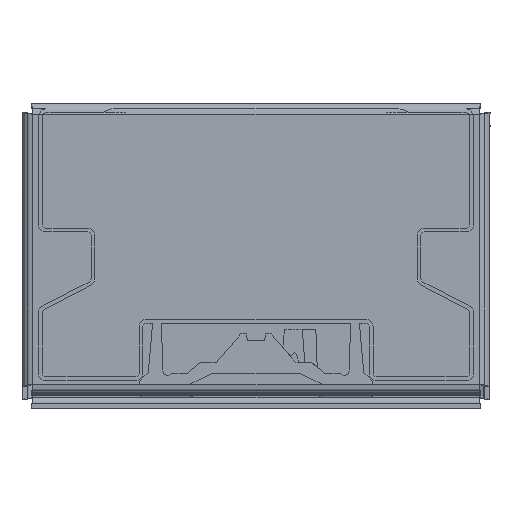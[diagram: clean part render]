
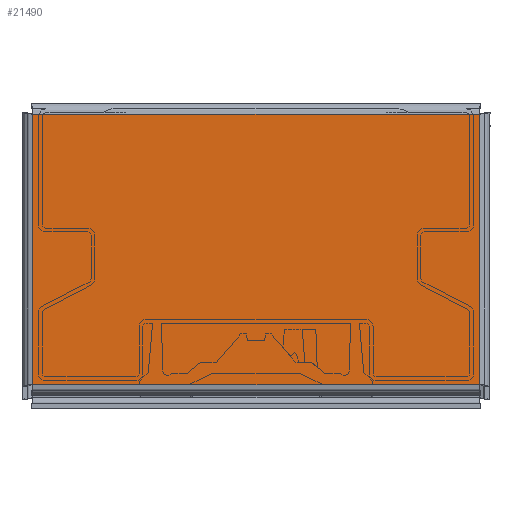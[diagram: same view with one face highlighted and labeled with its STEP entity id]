
A CAD part, top view. The second image highlights one B-rep face of the part: STEP entity #21490.
In plain terms, the highlighted planar face has unit normal (0, 0, 1).
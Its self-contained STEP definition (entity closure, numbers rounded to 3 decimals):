
#1575=FACE_OUTER_BOUND('',#2763,.T.);
#2763=EDGE_LOOP('',(#14504,#14505,#14506,#14507));
#4033=LINE('',#31530,#6380);
#4039=LINE('',#31596,#6386);
#4054=LINE('',#31696,#6401);
#4069=LINE('',#31795,#6416);
#6380=VECTOR('',#24898,10.);
#6386=VECTOR('',#24910,10.);
#6401=VECTOR('',#24939,10.);
#6416=VECTOR('',#24968,10.);
#8761=VERTEX_POINT('',#31521);
#8762=VERTEX_POINT('',#31529);
#8765=VERTEX_POINT('',#31588);
#8775=VERTEX_POINT('',#31688);
#10927=EDGE_CURVE('',#8762,#8761,#4033,.T.);
#10935=EDGE_CURVE('',#8761,#8765,#4039,.T.);
#10954=EDGE_CURVE('',#8765,#8775,#4054,.T.);
#10973=EDGE_CURVE('',#8775,#8762,#4069,.T.);
#14504=ORIENTED_EDGE('',*,*,#10927,.T.);
#14505=ORIENTED_EDGE('',*,*,#10935,.T.);
#14506=ORIENTED_EDGE('',*,*,#10954,.T.);
#14507=ORIENTED_EDGE('',*,*,#10973,.T.);
#20738=PLANE('',#22741);
#21490=ADVANCED_FACE('',(#1575),#20738,.F.);
#22741=AXIS2_PLACEMENT_3D('',#31881,#24993,#24994);
#24898=DIRECTION('',(-1.,0.,0.));
#24910=DIRECTION('',(0.,-1.,0.));
#24939=DIRECTION('',(1.,0.,0.));
#24968=DIRECTION('',(0.,1.,0.));
#24993=DIRECTION('center_axis',(0.,0.,
-1.));
#24994=DIRECTION('ref_axis',(1.,0.,0.));
#31521=CARTESIAN_POINT('',(-41.,37.7,1.));
#31529=CARTESIAN_POINT('',(41.,37.7,1.));
#31530=CARTESIAN_POINT('',(20.5,37.7,1.));
#31588=CARTESIAN_POINT('',(-41.,-12.,1.));
#31596=CARTESIAN_POINT('',(-41.,25.275,1.));
#31688=CARTESIAN_POINT('',(41.,-12.,1.));
#31696=CARTESIAN_POINT('',(-20.5,-12.,1.));
#31795=CARTESIAN_POINT('',(41.,0.425,1.));
#31881=CARTESIAN_POINT('Origin',(0.,12.85,
1.));
